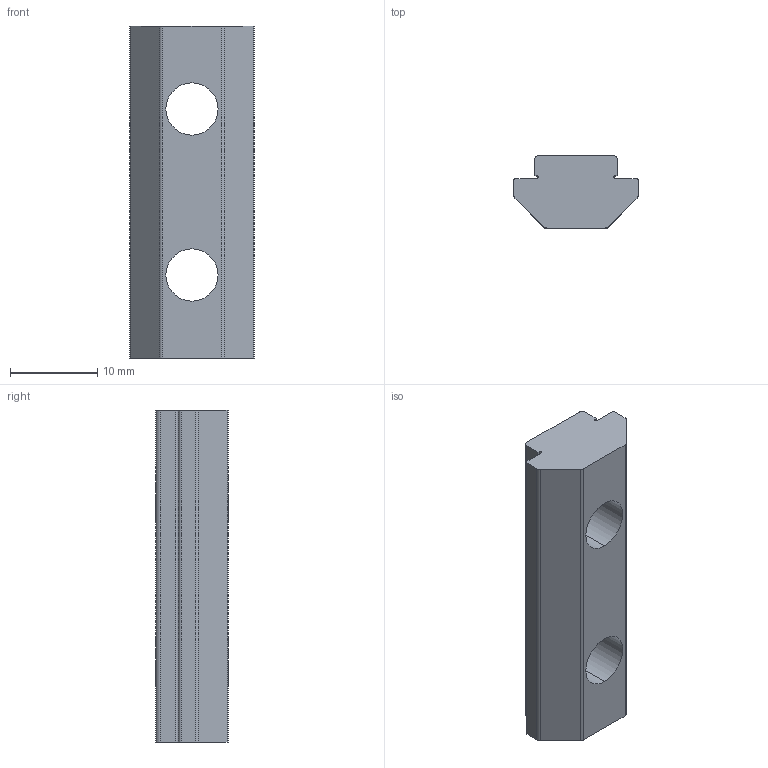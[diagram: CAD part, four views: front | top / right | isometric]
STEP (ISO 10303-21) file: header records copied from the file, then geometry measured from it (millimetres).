
FILE_DESCRIPTION((''),'2;1');
FILE_NAME('643874M','2023-02-28T',('jenni.wallner'),(''),'PRO/ENGINEER BY PARAMETRIC TECHNOLOGY CORPORATION, 2012420','PRO/ENGINEER BY PARAMETRIC TECHNOLOGY CORPORATION, 2012420','');
FILE_SCHEMA(('CONFIG_CONTROL_DESIGN'));
Length unit declared in the file: inch
Products named in the file (1): 643874M
Bounding box: 14.3 x 8.33 x 38.1 mm (x, y, z)
Volume: 3073.8 mm3; surface area: 1968.9 mm2
Topology: 1 solids, 1 shells, 28 faces, 82 edges, 56 vertices
Faces by surface type: cylinder 14, plane 14
Entity records: 998 total; most frequent: DIRECTION 170, CARTESIAN_POINT 166, ORIENTED_EDGE 164, EDGE_CURVE 82, AXIS2_PLACEMENT_3D 60, VERTEX_POINT 56, VECTOR 50, LINE 50
